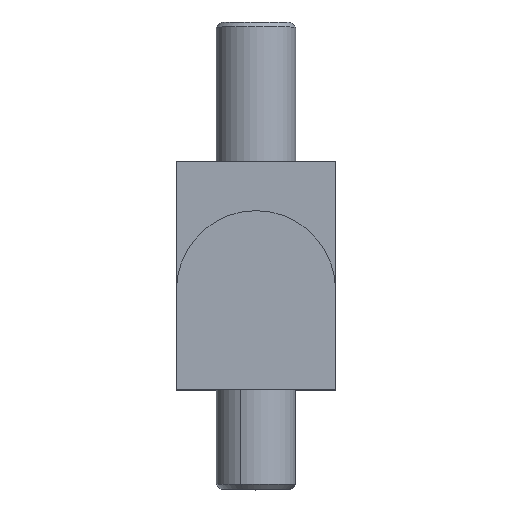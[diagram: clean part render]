
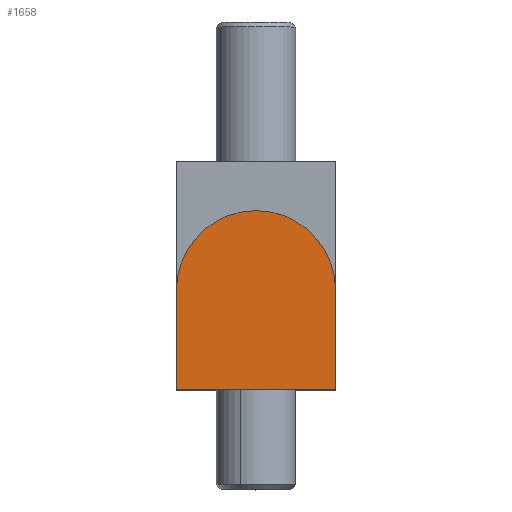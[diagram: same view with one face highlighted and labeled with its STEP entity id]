
A CAD part, top view. The second image highlights one B-rep face of the part: STEP entity #1658.
In plain terms, the highlighted planar face has unit normal (0, 0, 1) as drawn and (0, 0, -1) by its records, which use the part's own axes.
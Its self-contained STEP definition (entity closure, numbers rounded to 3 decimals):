
#2 = CIRCLE ( 'NONE', #983, 8. ) ;
#47 = DIRECTION ( 'NONE',  ( -1., 0., 0. ) ) ;
#86 = CARTESIAN_POINT ( 'NONE',  ( 8., 0., 0. ) ) ;
#89 = DIRECTION ( 'NONE',  ( -1., 0., 0. ) ) ;
#105 = LINE ( 'NONE', #694, #1134 ) ;
#164 = CARTESIAN_POINT ( 'NONE',  ( 0., 10., 0. ) ) ;
#199 = LINE ( 'NONE', #943, #845 ) ;
#216 = CARTESIAN_POINT ( 'NONE',  ( 0., 10., 0. ) ) ;
#220 = ORIENTED_EDGE ( 'NONE', *, *, #537, .F. ) ;
#243 = VECTOR ( 'NONE', #292, 1000. ) ;
#284 = ORIENTED_EDGE ( 'NONE', *, *, #1635, .F. ) ;
#292 = DIRECTION ( 'NONE',  ( 0., 1., 0. ) ) ;
#317 = ORIENTED_EDGE ( 'NONE', *, *, #1669, .F. ) ;
#371 = ORIENTED_EDGE ( 'NONE', *, *, #382, .F. ) ;
#382 = EDGE_CURVE ( 'NONE', #1586, #900, #2, .T. ) ;
#537 = EDGE_CURVE ( 'NONE', #900, #1449, #105, .T. ) ;
#547 = CARTESIAN_POINT ( 'NONE',  ( 8., 10., 0. ) ) ;
#549 = PLANE ( 'NONE',  #1140 ) ;
#665 = CARTESIAN_POINT ( 'NONE',  ( -8., 10., 0. ) ) ;
#694 = CARTESIAN_POINT ( 'NONE',  ( -8., 10., 0. ) ) ;
#814 = DIRECTION ( 'NONE',  ( 0., 0., -1. ) ) ;
#845 = VECTOR ( 'NONE', #1595, 1000. ) ;
#900 = VERTEX_POINT ( 'NONE', #665 ) ;
#929 = FACE_OUTER_BOUND ( 'NONE', #1227, .T. ) ;
#943 = CARTESIAN_POINT ( 'NONE',  ( -8., 0., 0. ) ) ;
#983 = AXIS2_PLACEMENT_3D ( 'NONE', #216, #991, #89 ) ;
#991 = DIRECTION ( 'NONE',  ( 0., 0., 1. ) ) ;
#1083 = DIRECTION ( 'NONE',  ( 0., -1., 0. ) ) ;
#1134 = VECTOR ( 'NONE', #1083, 1000. ) ;
#1140 = AXIS2_PLACEMENT_3D ( 'NONE', #164, #814, #47 ) ;
#1148 = CARTESIAN_POINT ( 'NONE',  ( -8., 0., 0. ) ) ;
#1203 = VERTEX_POINT ( 'NONE', #86 ) ;
#1227 = EDGE_LOOP ( 'NONE', ( #371, #284, #317, #220 ) ) ;
#1449 = VERTEX_POINT ( 'NONE', #1148 ) ;
#1586 = VERTEX_POINT ( 'NONE', #1587 ) ;
#1587 = CARTESIAN_POINT ( 'NONE',  ( 8., 10., 0. ) ) ;
#1595 = DIRECTION ( 'NONE',  ( 1., 0., 0. ) ) ;
#1621 = LINE ( 'NONE', #547, #243 ) ;
#1635 = EDGE_CURVE ( 'NONE', #1203, #1586, #1621, .T. ) ;
#1658 = ADVANCED_FACE ( 'NONE', ( #929 ), #549, .T. ) ;
#1669 = EDGE_CURVE ( 'NONE', #1449, #1203, #199, .T. ) ;
